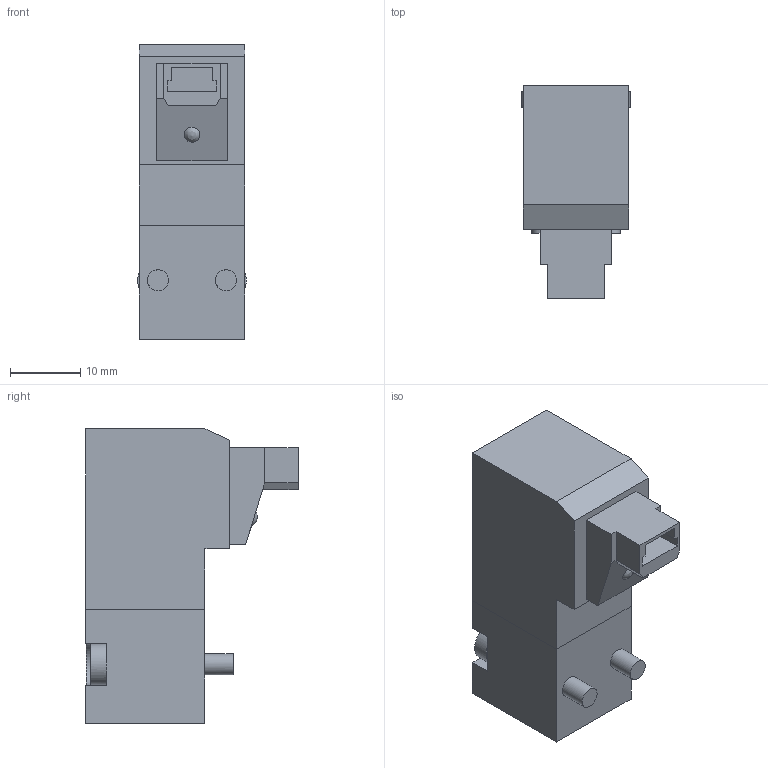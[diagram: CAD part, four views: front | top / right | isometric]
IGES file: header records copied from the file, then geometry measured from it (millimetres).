
Global section: file name: N3##_R6L#-2; native system: Autodesk Inventor 2014; preprocessor: unknown; author: A. Manieri; organization: Pneumax S.p.A.; date: 20160913.134813; units: millimetre
Bounding box: 15.5 x 30.3 x 42 mm (x, y, z)
Volume: 12225.8 mm3; surface area: 4078.9 mm2
Topology: 1 solids, 1 shells, 88 faces, 228 edges, 149 vertices
Faces by surface type: bspline 88
